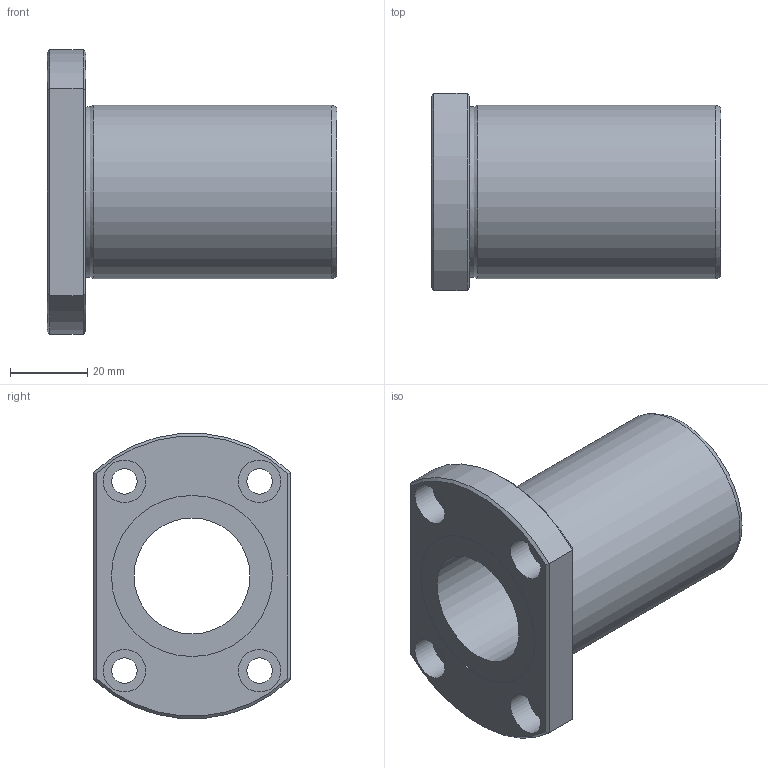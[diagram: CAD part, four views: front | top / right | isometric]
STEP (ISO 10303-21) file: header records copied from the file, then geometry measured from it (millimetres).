
FILE_DESCRIPTION((''),'2;1');
FILE_NAME('D:\製品 (図面)\カタログ用3D\メンテナンスフリー関連\STEP形式\LFT-MF\LFT30MF.stp','2010-06-01T16:08:56',('Tsuchiya'),(''),'Autodesk Inventor 10','Autodesk Inventor 10','');
FILE_SCHEMA(('AUTOMOTIVE_DESIGN { 1 0 10303 214 1 1 1 1 }'));
Length unit declared in the file: millimetre
Products named in the file (1): LFT30MF
Bounding box: 75 x 51 x 73.74 mm (x, y, z)
Volume: 81492.3 mm3; surface area: 24666.7 mm2
Topology: 1 solids, 1 shells, 35 faces, 68 edges, 42 vertices
Faces by surface type: plane 15, cylinder 14, cone 4, torus 1, bspline 1
Full cylindrical faces by diameter (mm): 6.6 x4, 11 x4, 30 x1, 41.7 x2, 45 x1
Entity records: 935 total; most frequent: CARTESIAN_POINT 218, DIRECTION 150, ORIENTED_EDGE 108, AXIS2_PLACEMENT_3D 69, EDGE_LOOP 66, EDGE_CURVE 54, VERTEX_POINT 42, FACE_OUTER_BOUND 35
